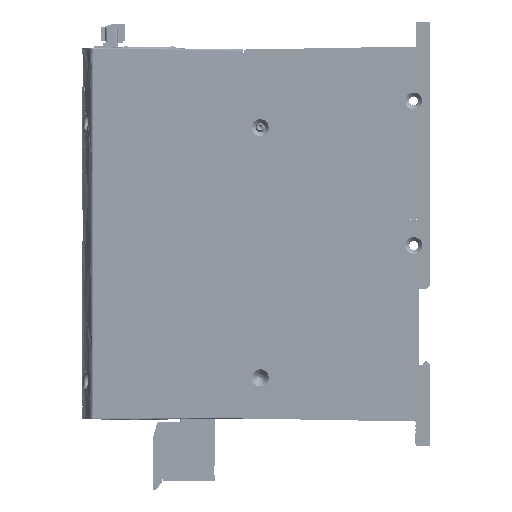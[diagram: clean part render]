
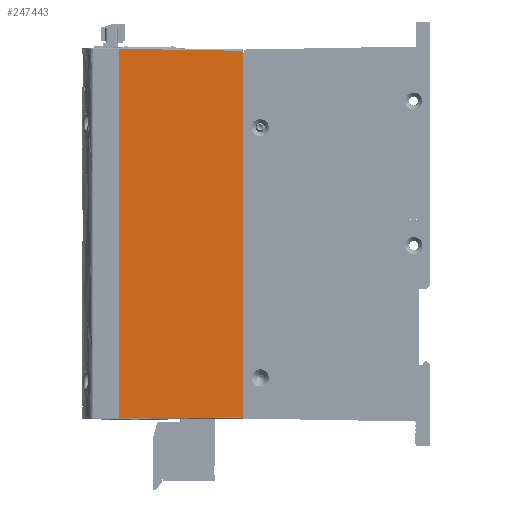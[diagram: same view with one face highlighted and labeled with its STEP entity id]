
A CAD part, left-side view. The second image highlights one B-rep face of the part: STEP entity #247443.
In plain terms, the highlighted planar face has unit normal (-1, -0.009, 0) as drawn and (-1, 0, -0.009) by its records, which use the part's own axes.
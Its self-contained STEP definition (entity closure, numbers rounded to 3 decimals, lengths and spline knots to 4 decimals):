
#13586=PLANE('',#260566);
#24322=FACE_OUTER_BOUND('',#36188,.T.);
#36188=EDGE_LOOP('',(#190971,#190972,#190973,#190974));
#50051=LINE('',#351843,#80534);
#50865=LINE('',#354151,#81348);
#50866=LINE('',#354154,#81349);
#51150=LINE('',#354796,#81633);
#80534=VECTOR('',#281836,0.3937);
#81348=VECTOR('',#283642,0.3937);
#81349=VECTOR('',#283645,0.3937);
#81633=VECTOR('',#284557,0.3937);
#116065=VERTEX_POINT('',#351840);
#116066=VERTEX_POINT('',#351842);
#116896=VERTEX_POINT('',#354149);
#116897=VERTEX_POINT('',#354153);
#146706=EDGE_CURVE('',#116066,#116065,#50051,.T.);
#147804=EDGE_CURVE('',#116896,#116065,#50865,.T.);
#147805=EDGE_CURVE('',#116066,#116897,#50866,.T.);
#148118=EDGE_CURVE('',#116896,#116897,#51150,.T.);
#190971=ORIENTED_EDGE('',*,*,#147804,.F.);
#190972=ORIENTED_EDGE('',*,*,#148118,.T.);
#190973=ORIENTED_EDGE('',*,*,#147805,.F.);
#190974=ORIENTED_EDGE('',*,*,#146706,.T.);
#247443=ADVANCED_FACE('',(#24322),#13586,.F.);
#260566=AXIS2_PLACEMENT_3D('',#354802,#284566,#284567);
#281836=DIRECTION('',(0.,1.,0.));
#283642=DIRECTION('',(-0.009,0.009,1.));
#283645=DIRECTION('',(0.009,0.016,-1.));
#284557=DIRECTION('',(0.,-1.,0.));
#284566=DIRECTION('center_axis',(1.,0.,
0.009));
#284567=DIRECTION('ref_axis',(0.009,0.,
-1.));
#351840=CARTESIAN_POINT('',(-5.4035,6.7955,2.3437));
#351842=CARTESIAN_POINT('',(-5.4035,0.0173,2.3437));
#351843=CARTESIAN_POINT('',(-5.4035,3.4075,2.3437));
#354149=CARTESIAN_POINT('',(-5.3835,6.7755,0.06));
#354151=CARTESIAN_POINT('',(-5.4005,6.7925,2.0024));
#354153=CARTESIAN_POINT('',(-5.3835,0.054,0.06));
#354154=CARTESIAN_POINT('',(-5.3885,0.0449,0.6302));
#354796=CARTESIAN_POINT('',(-5.3835,3.4125,0.06));
#354802=CARTESIAN_POINT('Origin',(-5.3949,3.41,1.3613));
